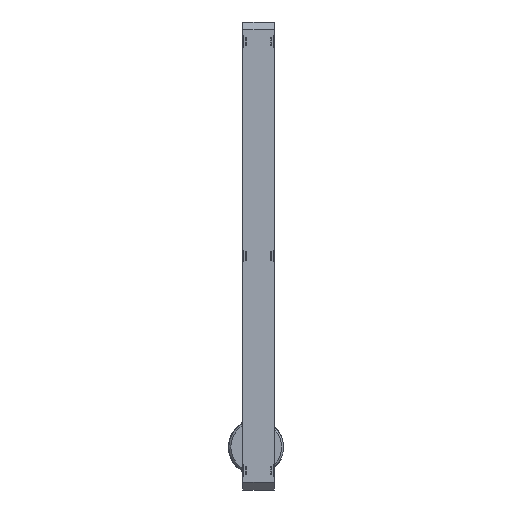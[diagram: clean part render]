
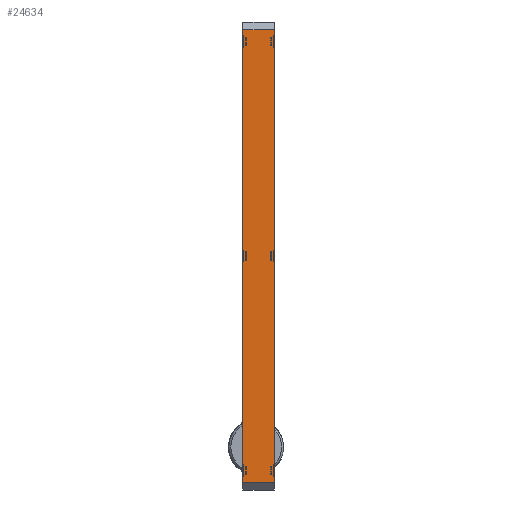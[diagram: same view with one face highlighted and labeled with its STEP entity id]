
A CAD part, left-side view. The second image highlights one B-rep face of the part: STEP entity #24634.
In plain terms, the highlighted planar face has unit normal (-1, 0, 0).
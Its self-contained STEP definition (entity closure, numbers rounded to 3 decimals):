
#4580 = CARTESIAN_POINT ( 'NONE',  ( -66., 6., -60. ) ) ;
#4656 = AXIS2_PLACEMENT_3D ( 'NONE', #4580, #4725, #4724 ) ;
#4675 = CARTESIAN_POINT ( 'NONE',  ( -66., 6., -58. ) ) ;
#4715 = DIRECTION ( 'NONE',  ( 0., 0., -1. ) ) ;
#4716 = VECTOR ( 'NONE', #4715, 1000. ) ;
#4717 = CARTESIAN_POINT ( 'NONE',  ( -66., -1., -60. ) ) ;
#4719 = DIRECTION ( 'NONE',  ( 0., -1., 0. ) ) ;
#4720 = VECTOR ( 'NONE', #4719, 1000. ) ;
#4721 = LINE ( 'NONE', #4675, #4720 ) ;
#4722 = CARTESIAN_POINT ( 'NONE',  ( -66., -1., 58. ) ) ;
#4723 = LINE ( 'NONE', #4717, #4716 ) ;
#4724 = DIRECTION ( 'NONE',  ( 0., 0., -1. ) ) ;
#4725 = DIRECTION ( 'NONE',  ( 1., 0., 0. ) ) ;
#4728 = PLANE ( 'NONE',  #4656 ) ;
#4731 = FACE_OUTER_BOUND ( 'NONE', #24704, .T. ) ;
#4847 = DIRECTION ( 'NONE',  ( 0., 1., 0. ) ) ;
#4848 = VECTOR ( 'NONE', #4847, 1000. ) ;
#4849 = CARTESIAN_POINT ( 'NONE',  ( -66., 6., 58. ) ) ;
#4850 = LINE ( 'NONE', #4849, #4848 ) ;
#4875 = DIRECTION ( 'NONE',  ( 0., 0., 1. ) ) ;
#4876 = VECTOR ( 'NONE', #4875, 1000. ) ;
#4877 = LINE ( 'NONE', #4882, #4876 ) ;
#4878 = CARTESIAN_POINT ( 'NONE',  ( -66., 7., -58. ) ) ;
#4882 = CARTESIAN_POINT ( 'NONE',  ( -66., 7., -60. ) ) ;
#4886 = CARTESIAN_POINT ( 'NONE',  ( -66., 7., 58. ) ) ;
#4887 = CARTESIAN_POINT ( 'NONE',  ( -66., -1., -58. ) ) ;
#24634 = ADVANCED_FACE ( 'NONE', ( #4731 ), #4728, .F. ) ;
#24635 = ORIENTED_EDGE ( 'NONE', *, *, #24637, .T. ) ;
#24636 = ORIENTED_EDGE ( 'NONE', *, *, #24707, .F. ) ;
#24637 = EDGE_CURVE ( 'NONE', #24708, #24706, #4721, .T. ) ;
#24639 = EDGE_CURVE ( 'NONE', #24642, #24706, #4723, .T. ) ;
#24641 = ORIENTED_EDGE ( 'NONE', *, *, #24639, .F. ) ;
#24642 = VERTEX_POINT ( 'NONE', #4722 ) ;
#24685 = EDGE_CURVE ( 'NONE', #24642, #24701, #4850, .T. ) ;
#24699 = ORIENTED_EDGE ( 'NONE', *, *, #24685, .T. ) ;
#24701 = VERTEX_POINT ( 'NONE', #4886 ) ;
#24704 = EDGE_LOOP ( 'NONE', ( #24636, #24635, #24641, #24699 ) ) ;
#24706 = VERTEX_POINT ( 'NONE', #4887 ) ;
#24707 = EDGE_CURVE ( 'NONE', #24708, #24701, #4877, .T. ) ;
#24708 = VERTEX_POINT ( 'NONE', #4878 ) ;
